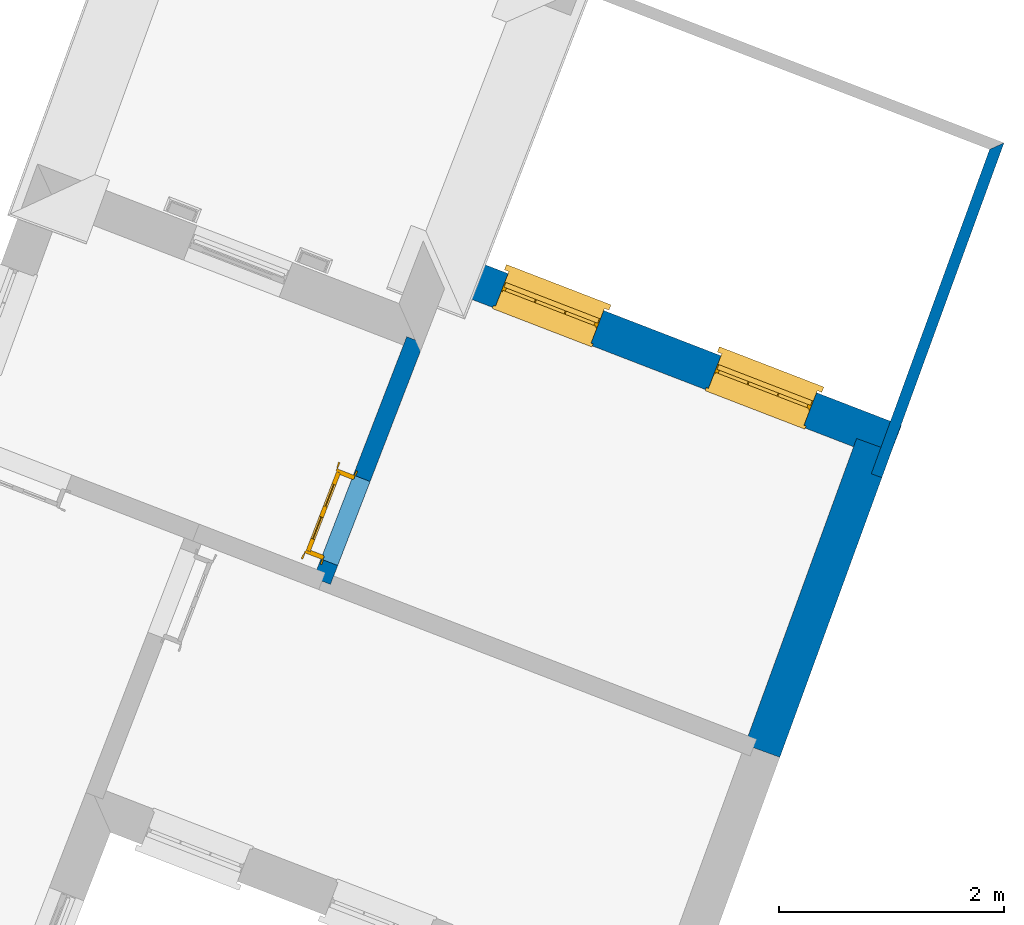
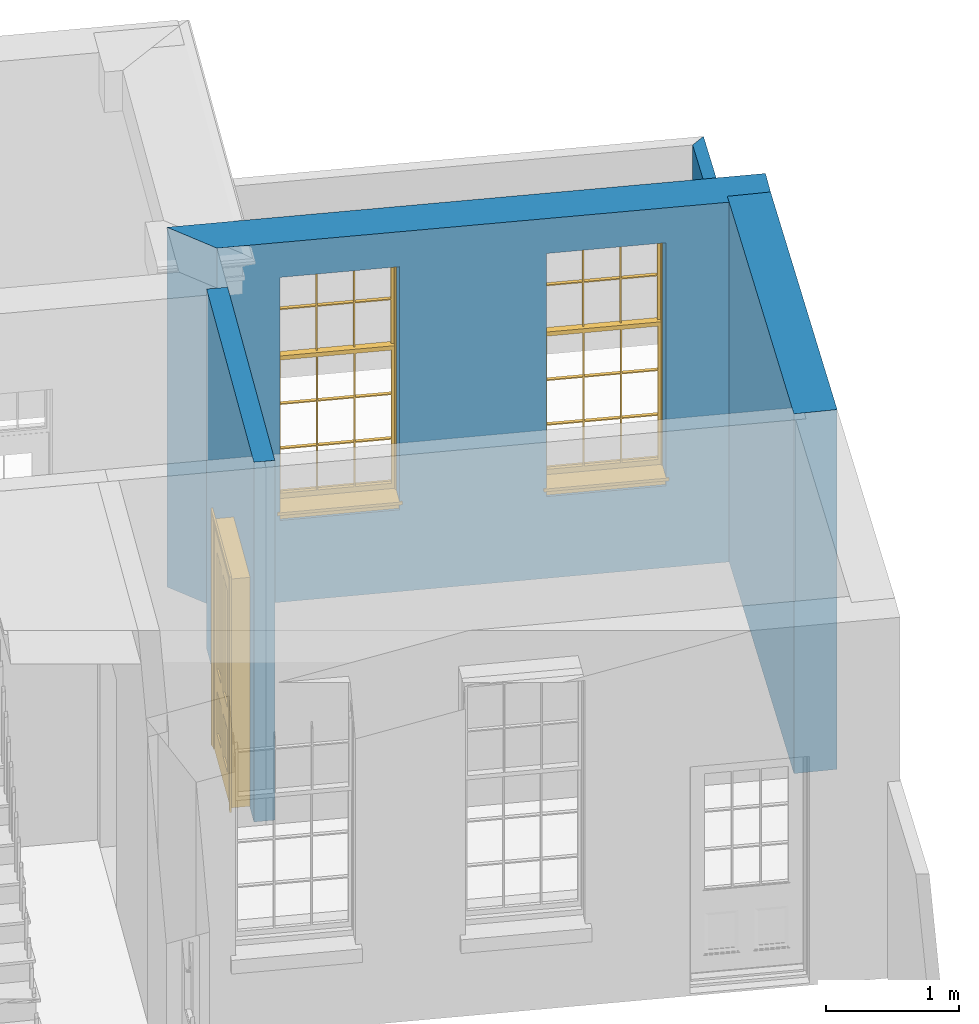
# One storey, part 4 of 6: 4 walls, 2 windows, 1 door, 3 openings.
"""IFC4 building model written with IfcOpenShell, lengths in metres."""

from ifc_helpers import new_model, si_unit, frame, origin, origin_with_axes, place, context, subcontext, project, spatial, polyline, outline, extrude, faceted_brep, source, transform, mapped, material, layer, layer_set, layer_usage, type_object, type_shapes, element, fill, save


model = new_model("IFC4")

# Units and contexts
model_context = context("Model", 3, world=origin_with_axes())
body_context = subcontext(model_context, "Body", "Model", "MODEL_VIEW")
ifc_project = project(units=[si_unit("PLANEANGLEUNIT", "RADIAN"), si_unit("MASSUNIT", "GRAM", prefix="KILO"), si_unit("FORCEUNIT", "NEWTON", prefix="KILO"), si_unit("LENGTHUNIT", "METRE"), si_unit("AREAUNIT", "SQUARE_METRE"), si_unit("VOLUMEUNIT", "CUBIC_METRE")], contexts=[model_context, model_context])

# Sites, building, storey
site_1_placement = place(None, origin_with_axes())
site_1 = spatial("IfcSite", under=ifc_project, at=site_1_placement, Name="Tamar")
site_2_placement = place(site_1_placement, origin_with_axes())
site_2 = spatial("IfcSite", under=site_1, at=site_2_placement, Name="Site plot-11", CompositionType="ELEMENT")
building_placement = place(None, origin_with_axes())
building = spatial("IfcBuilding", under=site_2, at=building_placement, Name="Building plot-11", CompositionType="ELEMENT")
storey_placement = place(None, frame((0.0, 0.0, 26.8), z_axis=(0.0, 0.0, 1.0), x_axis=(1.0, 0.0, 0.0)))
storey = spatial("IfcBuildingStorey", under=building, at=storey_placement, Name="plot-11 0", CompositionType="ELEMENT", Elevation=26.8)

# Wall, openings, windows
ifc_material_1 = material(Name="Masonry")
ifc_layer_1 = layer(ifc_material_1, 0.33, ventilated=False)
ifc_layer_set_1 = layer_set([ifc_layer_1], Name="exterior_0.08_0.25")
ifc_layer_usage_1 = layer_usage(ifc_layer_set_1, "AXIS2", "POSITIVE", -0.25)
wall_type_1 = type_object("IfcWallType", Name="exterior_0.08_0.25", PredefinedType="SOLIDWALL", material=ifc_layer_set_1)
wall_1_placement = place(storey_placement, frame((248.278077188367, 315.049619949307, 0.0), z_axis=(0.0, 0.0, 1.0), x_axis=(-0.932925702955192, 0.360068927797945, 0.0)))
wall_1 = element("IfcWall", 1, at=wall_1_placement, inside=storey, type_object=wall_type_1, material=ifc_layer_usage_1, Name="exterior", context=body_context, shape_type="SweptSolid", body=[
    extrude(outline(polyline([(-0.249999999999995, 0.0799999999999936), (-0.250000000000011, -0.249999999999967), (4.30341760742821, -0.249999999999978), (3.97341760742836, 0.0800000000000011), (-0.249999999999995, 0.0799999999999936)])), origin_with_axes(), (0.0, 0.0, 1.0), 3.3),
])
opening_1_placement = place(wall_1_placement, frame((0.558354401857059, 0.0, 0.75)))
opening_1 = element("IfcOpeningElement", 2, at=opening_1_placement, cuts=wall_1, Name="My Opening", ObjectType="Opening", context=body_context, shape_type="SweptSolid", body=[
    extrude(outline(polyline([(0.0, -0.269999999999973), (0.910000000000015, -0.269999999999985), (0.910000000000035, 1.10000000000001), (1.95399252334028e-14, 1.10000000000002), (0.0, -0.269999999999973)])), origin_with_axes(), (0.0, 0.0, 1.0), 2.23),
])
opening_2_placement = place(wall_1_placement, frame((2.58506320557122, 0.0, 0.75)))
opening_2 = element("IfcOpeningElement", 3, at=opening_2_placement, cuts=wall_1, Name="My Opening", ObjectType="Opening", context=body_context, shape_type="SweptSolid", body=[
    extrude(outline(polyline([(0.0, -0.269999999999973), (0.910000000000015, -0.269999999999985), (0.910000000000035, 1.10000000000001), (1.99840144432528e-14, 1.10000000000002), (0.0, -0.269999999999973)])), origin_with_axes(), (0.0, 0.0, 1.0), 2.23),
])
window_type = type_object("IfcWindowType", Name="sash_big_taller", PartitioningType="DOUBLE_PANEL_HORIZONTAL", PredefinedType="NOTDEFINED")
shared_shape_1 = source(origin(), body_context, "Body", "Brep", [
    faceted_brep([(0.033125, 0.145, 1.385209), (0.01, 0.145, 1.385209), (0.033125, 0.145, 1.786042), (0.876875, 0.145, 1.385209), (0.876875, 0.145, 1.786042), (0.9, 0.145, 1.385209), (0.876875, 0.145, 1.796042), (0.876875, 0.145, 2.196875), (0.9, 0.145, 2.22), (0.033125, 0.145, 2.196875), (0.033125, 0.145, 1.796042), (0.01, 0.145, 2.22), (0.876875, 0.115, 1.786042), (0.876875, 0.115, 1.385209), (0.9, 0.115, 1.347084), (0.033125, 0.115, 2.196875), (0.01, 0.115, 2.22), (0.033125, 0.115, 1.796042), (0.01, 0.115, 1.347084), (0.033125, 0.115, 1.385209), (0.033125, 0.115, 1.786042), (0.876875, 0.115, 2.196875), (0.876875, 0.115, 1.796042), (0.9, 0.115, 2.22), (0.033125, 0.145, 1.347084), (0.01, 0.145, 1.347084), (0.033125, 0.145, 0.94625), (0.876875, 0.145, 1.347084), (0.876875, 0.145, 0.94625), (0.9, 0.145, 1.347084), (0.876875, 0.145, 0.52625), (0.876875, 0.145, 0.125417), (0.9, 0.145, 0.077167), (0.033125, 0.145, 0.125417), (0.033125, 0.145, 0.52625), (0.01, 0.145, 0.077167), (-0.0425, 0.0, 0.01), (-0.0425, -0.05, 0.001667), (0.0, 0.0, 0.01), (0.9525, 0.0, 0.01), (0.91, 0.0, 0.01), (0.9525, -0.05, 0.001667), (-0.02, 0.33, 0.077167), (0.0, 0.33, 0.077167), (-0.02, 0.36, 0.077167), (0.0, 0.19, 0.077167), (0.01, 0.19, 0.077167), (0.91, 0.19, 0.077167), (0.91, 0.33, 0.077167), (0.9, 0.19, 0.077167), (0.93, 0.33, 0.077167), (0.93, 0.36, 0.077167), (0.01, 0.175, 1.385209), (0.9, 0.175, 1.385209), (0.876875, 0.175, 0.125417), (0.876875, 0.175, 0.52625), (0.9, 0.175, 0.077167), (0.876875, 0.175, 0.94625), (0.876875, 0.175, 1.347084), (0.033125, 0.175, 0.125417), (0.01, 0.175, 0.077167), (0.033125, 0.175, 0.52625), (0.033125, 0.175, 1.347084), (0.033125, 0.175, 0.94625), (-0.02, 0.33, 0.052167), (-0.02, 0.36, 0.052167), (0.93, 0.36, 0.052167), (0.93, 0.33, 0.052167), (0.91, 0.33, 0.052167), (0.0, 0.33, 0.052167), (0.91, 0.1, 0.026667), (0.0, 0.1, 0.026667), (-0.0425, -0.05, -0.123333), (0.9525, -0.05, -0.123333), (-0.0425, 0.0, -0.123333), (0.9525, 0.0, -0.123333), (0.01, 0.19, 2.22), (0.9, 0.19, 2.22), (0.0, 0.19, 2.23), (0.91, 0.19, 2.23), (0.01, 0.1, 0.077167), (0.9, 0.1, 0.077167), (0.592292, 0.145, 0.125417), (0.592292, 0.175, 0.125417), (0.317708, 0.175, 0.125417), (0.317708, 0.145, 0.125417), (0.592292, 0.145, 0.53625), (0.317708, 0.145, 0.53625), (0.317708, 0.145, 0.52625), (0.592292, 0.145, 0.52625), (0.592292, 0.175, 0.53625), (0.317708, 0.175, 0.53625), (0.592292, 0.115, 1.796042), (0.592292, 0.145, 1.796042), (0.317708, 0.145, 1.796042), (0.317708, 0.115, 1.796042), (0.317708, 0.115, 1.786042), (0.592292, 0.115, 1.786042), (0.317708, 0.145, 1.786042), (0.592292, 0.145, 1.786042), (0.602292, 0.115, 1.786042), (0.592292, 0.115, 1.385209), (0.602292, 0.115, 1.385209), (0.602292, 0.145, 1.385209), (0.592292, 0.145, 1.385209), (0.602292, 0.145, 1.786042), (0.876875, 0.145, 0.53625), (0.876875, 0.175, 0.53625), (0.602292, 0.175, 0.53625), (0.602292, 0.145, 0.53625), (0.317708, 0.175, 0.52625), (0.307708, 0.175, 0.125417), (0.307708, 0.175, 0.52625), (0.602292, 0.175, 0.52625), (0.602292, 0.175, 0.125417), (0.592292, 0.175, 0.52625), (0.307708, 0.175, 0.53625), (0.033125, 0.175, 0.53625), (0.317708, 0.175, 1.347084), (0.317708, 0.175, 0.94625), (0.307708, 0.175, 0.94625), (0.307708, 0.175, 1.347084), (0.602292, 0.175, 1.347084), (0.602292, 0.175, 0.94625), (0.592292, 0.175, 0.94625), (0.592292, 0.175, 1.347084), (0.307708, 0.145, 0.52625), (0.307708, 0.145, 0.125417), (0.307708, 0.145, 0.53625), (0.033125, 0.145, 0.53625), (0.307708, 0.145, 1.347084), (0.307708, 0.145, 0.94625), (0.592292, 0.145, 1.347084), (0.592292, 0.145, 0.94625), (0.317708, 0.145, 0.94625), (0.317708, 0.145, 1.347084), (0.602292, 0.145, 0.94625), (0.602292, 0.145, 1.347084), (0.602292, 0.145, 0.52625), (0.602292, 0.145, 0.125417), (0.307708, 0.115, 1.796042), (0.307708, 0.115, 1.786042), (0.307708, 0.115, 1.385209), (0.317708, 0.115, 1.385209), (0.317708, 0.115, 2.196875), (0.307708, 0.115, 2.196875), (0.602292, 0.115, 2.196875), (0.592292, 0.115, 2.196875), (0.602292, 0.115, 1.796042), (0.602292, 0.145, 1.796042), (0.307708, 0.145, 1.796042), (0.307708, 0.145, 2.196875), (0.317708, 0.145, 2.196875), (0.592292, 0.145, 2.196875), (0.602292, 0.145, 2.196875), (0.307708, 0.145, 1.786042), (0.317708, 0.145, 1.385209), (0.307708, 0.145, 1.385209), (0.876875, 0.175, 0.93625), (0.033125, 0.175, 0.93625), (0.033125, 0.145, 0.93625), (0.876875, 0.145, 0.93625), (0.91, 0.1, 2.23), (0.9, 0.1, 2.22), (0.01, 0.1, 2.22), (0.0, 0.1, 2.23), (0.91, 0.0, 0.0), (0.0, 0.0, 0.0), (0.91, 0.33, 0.0), (0.0, 0.33, 0.0), (0.317708, 0.145, 0.93625), (0.592292, 0.145, 0.93625), (0.317708, 0.175, 0.93625), (0.307708, 0.175, 0.93625), (0.602292, 0.175, 0.93625), (0.592292, 0.175, 0.93625), (0.307708, 0.145, 0.93625), (0.602292, 0.145, 0.93625)], [[[0, 1, 2]], [[3, 4, 5]], [[6, 7, 8]], [[9, 10, 11]], [[12, 13, 14]], [[15, 16, 17]], [[18, 19, 20]], [[21, 22, 23]], [[24, 25, 26]], [[27, 28, 29]], [[30, 31, 32]], [[33, 34, 35]], [[14, 27, 29]], [[25, 24, 18]], [[36, 37, 38]], [[39, 40, 41]], [[42, 43, 44]], [[45, 46, 43]], [[47, 48, 49]], [[50, 51, 48]], [[1, 0, 52]], [[5, 53, 3]], [[54, 55, 56]], [[57, 58, 53]], [[59, 60, 61]], [[62, 63, 52]], [[48, 43, 46, 49]], [[51, 44, 43, 48]], [[64, 42, 44, 65]], [[65, 44, 51, 66]], [[66, 51, 50, 67]], [[65, 66, 68, 69]], [[60, 56, 49, 46]], [[70, 71, 38, 40]], [[37, 41, 40, 38]], [[37, 72, 73, 41]], [[74, 75, 73, 72]], [[8, 11, 76, 77]], [[76, 78, 79, 77]], [[32, 35, 80, 81]], [[81, 80, 71, 70]], [[82, 83, 84, 85]], [[86, 87, 88, 89]], [[86, 90, 91, 87]], [[92, 93, 94, 95]], [[92, 95, 96, 97]], [[96, 98, 99, 97]], [[100, 97, 101, 102]], [[103, 104, 99, 105]], [[97, 99, 104, 101]], [[102, 103, 105, 100]], [[106, 107, 108, 109]], [[110, 84, 111, 112]], [[113, 114, 83, 115]], [[116, 112, 61, 117]], [[90, 115, 110, 91]], [[118, 119, 120, 121]], [[122, 123, 124, 125]], [[113, 108, 107, 55]], [[126, 112, 111, 127]], [[34, 61, 112, 126]], [[89, 115, 83, 82]], [[88, 110, 115, 89]], [[85, 84, 110, 88]], [[128, 116, 117, 129]], [[130, 121, 120, 131]], [[132, 125, 124, 133]], [[134, 119, 118, 135]], [[136, 123, 122, 137]], [[138, 113, 55, 30]], [[139, 114, 113, 138]], [[138, 30, 106, 109]], [[88, 126, 127, 85]], [[138, 89, 82, 139]], [[137, 132, 133, 136]], [[128, 129, 34, 126]], [[135, 130, 131, 134]], [[140, 17, 20, 141]], [[96, 141, 142, 143]], [[144, 145, 140, 95]], [[146, 147, 92, 148]], [[100, 12, 22, 148]], [[149, 6, 4, 105]], [[94, 150, 151, 152]], [[149, 93, 153, 154]], [[99, 98, 94, 93]], [[155, 2, 10, 150]], [[156, 157, 155, 98]], [[141, 155, 157, 142]], [[20, 2, 155, 141]], [[143, 156, 98, 96]], [[140, 150, 10, 17]], [[145, 151, 150, 140]], [[147, 153, 93, 92]], [[95, 94, 152, 144]], [[22, 6, 149, 148]], [[148, 149, 154, 146]], [[100, 105, 4, 12]], [[109, 86, 89, 138]], [[108, 113, 115, 90]], [[91, 110, 112, 116]], [[87, 128, 126, 88]], [[97, 100, 148, 92]], [[141, 96, 95, 140]], [[98, 155, 150, 94]], [[105, 99, 93, 149]], [[143, 101, 104, 156]], [[135, 118, 125, 132]], [[144, 152, 153, 147]], [[127, 111, 59, 33]], [[15, 9, 151, 145]], [[146, 154, 7, 21]], [[31, 54, 114, 139]], [[36, 74, 72, 37]], [[39, 41, 73, 75]], [[18, 14, 101, 143]], [[23, 16, 144, 147]], [[83, 56, 60, 84]], [[52, 53, 125, 118]], [[53, 52, 156, 104]], [[11, 8, 153, 152]], [[14, 18, 135, 132]], [[2, 1, 11, 10]], [[8, 5, 4, 6]], [[57, 53, 56, 158]], [[60, 52, 63, 159]], [[26, 25, 35, 160]], [[32, 29, 28, 161]], [[14, 23, 22, 12]], [[18, 20, 17, 16]], [[19, 0, 2, 20]], [[17, 10, 9, 15]], [[12, 4, 3, 13]], [[21, 7, 6, 22]], [[27, 58, 57, 28]], [[30, 55, 54, 31]], [[33, 59, 61, 34]], [[26, 63, 62, 24]], [[5, 8, 77, 53]], [[76, 11, 1, 52]], [[46, 45, 78, 76]], [[49, 77, 79, 47]], [[70, 162, 163, 81]], [[71, 80, 164, 165]], [[19, 142, 157, 0]], [[102, 13, 3, 103]], [[121, 130, 24, 62]], [[29, 32, 81, 14]], [[80, 35, 25, 18]], [[60, 46, 76, 52]], [[77, 49, 56, 53]], [[23, 14, 81, 163]], [[16, 164, 80, 18]], [[35, 85, 127]], [[127, 33, 35]], [[139, 82, 32]], [[32, 31, 139]], [[32, 82, 85, 35]], [[102, 101, 14]], [[14, 13, 102]], [[18, 143, 142]], [[142, 19, 18]], [[146, 21, 23]], [[23, 147, 146]], [[16, 15, 145]], [[145, 144, 16]], [[11, 152, 151]], [[151, 9, 11]], [[154, 153, 8]], [[8, 7, 154]], [[23, 163, 164, 16]], [[162, 165, 164, 163]], [[52, 118, 121]], [[121, 62, 52]], [[125, 53, 122]], [[58, 122, 53]], [[27, 137, 122, 58]], [[56, 83, 114]], [[114, 54, 56]], [[111, 84, 60]], [[60, 59, 111]], [[137, 27, 14]], [[14, 132, 137]], [[130, 135, 18]], [[18, 24, 130]], [[157, 156, 52]], [[52, 0, 157]], [[103, 3, 53]], [[53, 104, 103]], [[79, 78, 165, 162]], [[78, 45, 71, 165]], [[162, 70, 47, 79]], [[166, 75, 74, 167]], [[68, 66, 67]], [[48, 68, 67, 50]], [[69, 64, 65]], [[42, 64, 69, 43]], [[69, 68, 168, 169]], [[70, 68, 48, 47]], [[166, 168, 68, 70]], [[43, 69, 71, 45]], [[69, 169, 167, 71]], [[168, 166, 167, 169]], [[38, 167, 74, 36]], [[71, 167, 38]], [[39, 75, 166, 40]], [[40, 166, 70]], [[133, 134, 170, 171]], [[133, 124, 119, 134]], [[28, 57, 123, 136]], [[172, 91, 116, 173]], [[174, 108, 90, 175]], [[120, 173, 159, 63]], [[124, 175, 172, 119]], [[174, 123, 57, 158]], [[176, 173, 116, 128]], [[160, 159, 173, 176]], [[171, 175, 90, 86]], [[170, 172, 175, 171]], [[87, 91, 172, 170]], [[131, 120, 63, 26]], [[177, 174, 158, 161]], [[109, 108, 174, 177]], [[177, 161, 28, 136]], [[170, 176, 128, 87]], [[177, 171, 86, 109]], [[131, 26, 160, 176]], [[136, 133, 171, 177]], [[123, 174, 175, 124]], [[119, 172, 173, 120]], [[134, 131, 176, 170]], [[129, 117, 159, 160]], [[161, 158, 107, 106]], [[35, 34, 129]], [[35, 129, 160]], [[32, 106, 30]], [[32, 161, 106]], [[56, 55, 107]], [[56, 107, 158]], [[60, 117, 61]], [[60, 159, 117]]]),
])
type_shapes(window_type, [shared_shape_1])
window_1_placement = place(storey_placement, frame((247.854392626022, 315.502555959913, 0.75), z_axis=(0.0, 0.0, 1.0), x_axis=(-0.848962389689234, 0.327662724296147, 0.0)))
window_1 = element("IfcWindow", 4, at=window_1_placement, inside=storey, type_object=window_type, Name="toilet outside window", OverallHeight=2.23, OverallWidth=0.91, context=body_context, shape_type="MappedRepresentation", body=[
    mapped(shared_shape_1, transform((0.0, 0.0, 0.0), scale=1.0)),
])
fill(opening_1, window_1)
window_2_placement = place(storey_placement, frame((245.963623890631, 316.232310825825, 0.75), z_axis=(0.0, 0.0, 1.0), x_axis=(-0.848962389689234, 0.327662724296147, 0.0)))
window_2 = element("IfcWindow", 5, at=window_2_placement, inside=storey, type_object=window_type, Name="toilet outside window", OverallHeight=2.23, OverallWidth=0.91, context=body_context, shape_type="MappedRepresentation", body=[
    mapped(shared_shape_1, transform((0.0, 0.0, 0.0), scale=1.0)),
])
fill(opening_2, window_2)

# Wall
ifc_material_2 = material(Name="Masonry")
ifc_layer_2 = layer(ifc_material_2, 0.33, ventilated=False)
ifc_layer_set_2 = layer_set([ifc_layer_2], Name="party_0.08_0.25")
ifc_layer_usage_2 = layer_usage(ifc_layer_set_2, "AXIS2", "POSITIVE", -0.25)
wall_type_2 = type_object("IfcWallType", Name="party_0.08_0.25", PredefinedType="SOLIDWALL", material=ifc_layer_set_2)
wall_2_placement = place(storey_placement, frame((247.286137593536, 312.330722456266, 0.0), z_axis=(0.0, 0.0, 1.0), x_axis=(0.342734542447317, 0.939432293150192, 0.0)))
element("IfcWall", 6, at=wall_2_placement, inside=storey, type_object=wall_type_2, material=ifc_layer_usage_2, Name="party", context=body_context, shape_type="SweptSolid", body=[
    extrude(outline(polyline([(2.66680147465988e-14, 0.0800000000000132), (-4.26727672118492e-14, -0.250000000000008), (2.89419206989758, -0.249999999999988), (2.89419206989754, 0.0799999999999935), (2.66680147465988e-14, 0.0800000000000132)])), origin_with_axes(), (0.0, 0.0, 1.0), 3.3),
])

# Wall, opening, door
ifc_material_3 = material(Name="Masonry")
ifc_layer_3 = layer(ifc_material_3, 0.16, ventilated=False)
ifc_layer_set_3 = layer_set([ifc_layer_3], Name="interior_0.08_0.08")
ifc_layer_usage_3 = layer_usage(ifc_layer_set_3, "AXIS2", "POSITIVE", -0.08)
wall_type_3 = type_object("IfcWallType", Name="interior_0.08_0.08", PredefinedType="SOLIDWALL", material=ifc_layer_set_3)
wall_3_placement = place(storey_placement, frame((243.454609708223, 313.809526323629, 0.0), z_axis=(0.0, 0.0, 1.0), x_axis=(0.36006892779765, 0.932925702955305, 0.0)))
wall_3 = element("IfcWall", 7, at=wall_3_placement, inside=storey, type_object=wall_type_3, material=ifc_layer_usage_3, Name="interior", context=body_context, shape_type="SweptSolid", body=[
    extrude(outline(polyline([(-1.80073597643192e-14, 0.0799999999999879), (1.80171569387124e-14, -0.0799999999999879), (2.29724046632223, -0.0799999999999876), (2.29724046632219, 0.0799999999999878), (-1.80073597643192e-14, 0.0799999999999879)])), origin_with_axes(), (0.0, 0.0, 1.0), 3.3),
])
opening_3_placement = place(wall_3_placement, frame((0.17999999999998, 0.0, 0.0199999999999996)))
opening_3 = element("IfcOpeningElement", 8, at=opening_3_placement, cuts=wall_3, Name="My Opening", ObjectType="Opening", context=body_context, shape_type="SweptSolid", body=[
    extrude(outline(polyline([(0.0, -0.100000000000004), (0.800000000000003, -0.0999999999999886), (0.800000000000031, 1.10000000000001), (2.80053757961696e-14, 1.09999999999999), (0.0, -0.100000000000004)])), origin_with_axes(), (0.0, 0.0, 1.0), 2.1),
])
door_type = type_object("IfcDoorType", Name="door_inside", OperationType="SINGLE_SWING_LEFT", PredefinedType="NOTDEFINED")
shared_shape_2 = source(origin(), body_context, "Body", "Brep", [
    faceted_brep([(0.773, 0.33, 1.895), (0.66, 0.33, 1.895), (0.66, 0.33, 2.073), (0.773, 0.33, 2.073), (0.773, 0.33, 0.82), (0.66, 0.33, 0.82), (0.45, 0.33, 1.895), (0.45, 0.33, 2.073), (0.773, 0.33, 0.62), (0.66, 0.33, 0.62), (0.66, 0.315, 0.82), (0.66, 0.315, 1.895), (0.45, 0.315, 1.895), (0.35, 0.33, 1.895), (0.35, 0.33, 2.073), (0.773, 0.33, 0.225), (0.66, 0.33, 0.225), (0.45, 0.33, 0.62), (0.45, 0.33, 0.82), (0.45, 0.315, 0.82), (0.35, 0.33, 0.82), (0.14, 0.33, 2.073), (0.14, 0.33, 1.895), (0.773, 0.33, 0.0), (0.66, 0.33, 0.0), (0.66, 0.315, 0.225), (0.66, 0.315, 0.62), (0.45, 0.315, 0.62), (0.35, 0.33, 0.62), (0.35, 0.315, 0.82), (0.35, 0.315, 1.895), (0.14, 0.315, 1.895), (0.027, 0.33, 2.073), (0.027, 0.33, 1.895), (0.773, 0.292, 0.0), (0.66, 0.292, 0.0), (0.45, 0.33, 0.0), (0.45, 0.33, 0.225), (0.45, 0.315, 0.225), (0.35, 0.33, 0.225), (0.14, 0.33, 0.82), (0.14, 0.33, 0.62), (0.14, 0.315, 0.82), (0.027, 0.33, 0.82), (0.773, 0.292, 0.225), (0.66, 0.292, 0.225), (0.45, 0.292, 0.0), (0.35, 0.33, 0.0), (0.35, 0.315, 0.225), (0.35, 0.315, 0.62), (0.14, 0.315, 0.62), (0.027, 0.33, 0.62), (0.773, 0.292, 0.62), (0.66, 0.292, 0.62), (0.45, 0.292, 0.225), (0.35, 0.292, 0.0), (0.14, 0.33, 0.225), (0.14, 0.33, 0.0), (0.14, 0.315, 0.225), (0.027, 0.33, 0.225), (0.773, 0.292, 0.82), (0.66, 0.292, 0.82), (0.66, 0.307, 0.62), (0.66, 0.307, 0.225), (0.45, 0.307, 0.225), (0.35, 0.292, 0.225), (0.14, 0.292, 0.0), (0.027, 0.33, 0.0), (0.773, 0.292, 1.895), (0.66, 0.292, 1.895), (0.45, 0.292, 0.62), (0.45, 0.292, 0.82), (0.45, 0.307, 0.62), (0.35, 0.292, 0.62), (0.14, 0.292, 0.225), (0.027, 0.292, 0.0), (0.773, 0.292, 2.073), (0.66, 0.292, 2.073), (0.66, 0.307, 1.895), (0.66, 0.307, 0.82), (0.45, 0.307, 0.82), (0.35, 0.292, 0.82), (0.35, 0.307, 0.62), (0.35, 0.307, 0.225), (0.14, 0.307, 0.225), (0.027, 0.292, 0.225), (0.45, 0.292, 1.895), (0.45, 0.292, 2.073), (0.45, 0.307, 1.895), (0.35, 0.292, 1.895), (0.14, 0.292, 0.82), (0.14, 0.292, 0.62), (0.14, 0.307, 0.62), (0.027, 0.292, 0.62), (0.35, 0.292, 2.073), (0.35, 0.307, 1.895), (0.35, 0.307, 0.82), (0.14, 0.307, 0.82), (0.027, 0.292, 0.82), (0.14, 0.292, 2.073), (0.14, 0.292, 1.895), (0.14, 0.307, 1.895), (0.027, 0.292, 1.895), (0.027, 0.292, 2.073), (0.02, 0.335, 0.0), (0.005, 0.34, 0.0), (0.005, 0.34, 2.095), (0.02, 0.335, 2.08), (0.02, 0.33, 0.0), (0.0, 0.335, 0.0), (0.0, 0.335, 2.1), (0.795, 0.34, 2.095), (0.78, 0.335, 2.08), (0.02, 0.33, 2.08), (0.0, 0.33, 0.0), (-0.032, 0.345, 0.0), (-0.032, 0.345, 2.132), (0.8, 0.335, 2.1), (0.795, 0.34, 0.0), (0.78, 0.335, 0.0), (0.78, 0.33, 2.08), (0.04, 0.29, 0.0), (0.025, 0.29, 0.0), (0.025, 0.29, 2.075), (0.04, 0.29, 2.06), (-0.04, 0.34, 0.0), (-0.04, 0.34, 2.14), (0.832, 0.345, 2.132), (0.8, 0.335, 0.0), (0.78, 0.33, 0.0), (0.8, 0.33, 0.0), (0.86, 0.33, 0.0), (0.86, 0.33, 2.16), (0.8, 0.33, 2.1), (-0.06, 0.33, 2.16), (0.0, 0.33, 2.1), (-0.06, 0.33, 0.0), (-0.04, 0.345, 0.0), (-0.04, 0.345, 2.14), (0.84, 0.34, 2.14), (0.832, 0.345, 0.0), (0.84, 0.34, 0.0), (0.86, 0.345, 0.0), (0.86, 0.345, 2.16), (-0.06, 0.345, 2.16), (-0.06, 0.345, 0.0), (0.84, 0.345, 0.0), (0.84, 0.345, 2.14), (-0.025, 0.155, 0.0), (-0.025, 0.16, 0.0), (-0.025, 0.16, 2.125), (-0.025, 0.155, 2.125), (-0.017, 0.155, 0.0), (-0.017, 0.155, 2.117), (0.825, 0.16, 2.125), (0.825, 0.155, 2.125), (0.825, 0.155, 0.0), (0.845, 0.155, 0.0), (-0.045, 0.155, 2.145), (-0.045, 0.155, 0.0), (0.845, 0.155, 2.145), (0.015, 0.165, 0.0), (0.015, 0.165, 2.085), (0.817, 0.155, 2.117), (0.825, 0.16, 0.0), (0.845, 0.17, 0.0), (0.845, 0.17, 2.145), (-0.045, 0.17, 2.145), (-0.045, 0.17, 0.0), (0.02, 0.16, 0.0), (0.02, 0.16, 2.08), (0.785, 0.165, 2.085), (0.817, 0.155, 0.0), (0.8, 0.17, 0.0), (0.8, 0.17, 2.1), (0.0, 0.17, 2.1), (0.0, 0.17, 0.0), (0.035, 0.165, 0.0), (0.035, 0.165, 2.065), (0.78, 0.16, 2.08), (0.785, 0.165, 0.0), (0.775, 0.29, 2.075), (0.76, 0.29, 2.06), (0.035, 0.17, 2.065), (0.035, 0.17, 0.0), (0.765, 0.165, 2.065), (0.78, 0.16, 0.0), (0.765, 0.17, 0.0), (0.765, 0.17, 2.065), (0.765, 0.165, 0.0), (0.04, 0.17, 2.06), (0.04, 0.17, 0.0), (0.76, 0.17, 2.06), (0.76, 0.17, 0.0), (0.76, 0.29, 0.0), (0.775, 0.29, 0.0), (0.025, 0.33, 0.0), (0.025, 0.33, 2.075), (0.775, 0.33, 0.0), (0.775, 0.33, 2.075)], [[[0, 1, 2, 3]], [[1, 0, 4, 5]], [[1, 6, 7, 2]], [[8, 9, 5, 4]], [[1, 5, 10, 11]], [[6, 1, 11, 12]], [[6, 13, 14, 7]], [[15, 16, 9, 8]], [[9, 17, 18, 5]], [[5, 18, 19, 10]], [[10, 19, 12, 11]], [[18, 6, 12, 19]], [[18, 20, 13, 6]], [[21, 14, 13, 22]], [[23, 24, 16, 15]], [[9, 16, 25, 26]], [[17, 9, 26, 27]], [[17, 28, 20, 18]], [[13, 20, 29, 30]], [[22, 13, 30, 31]], [[32, 21, 22, 33]], [[34, 35, 24, 23]], [[24, 36, 37, 16]], [[16, 37, 38, 25]], [[25, 38, 27, 26]], [[37, 17, 27, 38]], [[37, 39, 28, 17]], [[40, 20, 28, 41]], [[20, 40, 42, 29]], [[31, 30, 29, 42]], [[40, 22, 31, 42]], [[33, 22, 40, 43]], [[35, 34, 44, 45]], [[35, 46, 36, 24]], [[36, 47, 39, 37]], [[28, 39, 48, 49]], [[41, 28, 49, 50]], [[43, 40, 41, 51]], [[45, 44, 52, 53]], [[46, 35, 45, 54]], [[46, 55, 47, 36]], [[56, 39, 47, 57]], [[39, 56, 58, 48]], [[50, 49, 48, 58]], [[56, 41, 50, 58]], [[51, 41, 56, 59]], [[53, 52, 60, 61]], [[45, 53, 62, 63]], [[54, 45, 63, 64]], [[55, 46, 54, 65]], [[55, 66, 57, 47]], [[59, 56, 57, 67]], [[61, 60, 68, 69]], [[70, 53, 61, 71]], [[53, 70, 72, 62]], [[72, 64, 63, 62]], [[70, 54, 64, 72]], [[65, 54, 70, 73]], [[65, 74, 66, 55]], [[67, 57, 66, 75]], [[69, 68, 76, 77]], [[61, 69, 78, 79]], [[71, 61, 79, 80]], [[73, 70, 71, 81]], [[65, 73, 82, 83]], [[74, 65, 83, 84]], [[74, 85, 75, 66]], [[86, 69, 77, 87]], [[69, 86, 88, 78]], [[88, 80, 79, 78]], [[86, 71, 80, 88]], [[81, 71, 86, 89]], [[73, 81, 90, 91]], [[73, 91, 92, 82]], [[83, 82, 92, 84]], [[91, 74, 84, 92]], [[91, 93, 85, 74]], [[89, 86, 87, 94]], [[81, 89, 95, 96]], [[90, 81, 96, 97]], [[90, 98, 93, 91]], [[94, 99, 100, 89]], [[89, 100, 101, 95]], [[101, 97, 96, 95]], [[100, 90, 97, 101]], [[100, 102, 98, 90]], [[99, 103, 102, 100]], [[32, 103, 99, 21]], [[102, 103, 32, 33]], [[98, 102, 33, 43]], [[21, 99, 94, 14]], [[94, 87, 7, 14]], [[7, 87, 77, 2]], [[76, 3, 2, 77]], [[43, 51, 93, 98]], [[51, 59, 85, 93]], [[67, 75, 85, 59]], [[34, 23, 15, 44]], [[44, 15, 8, 52]], [[52, 8, 4, 60]], [[0, 68, 60, 4]], [[0, 3, 76, 68]], [[104, 105, 106, 107]], [[104, 108, 109, 105]], [[105, 109, 110, 106]], [[107, 106, 111, 112]], [[107, 113, 108, 104]], [[114, 109, 108]], [[109, 115, 116, 110]], [[106, 110, 117, 111]], [[112, 111, 118, 119]], [[113, 107, 112, 120]], [[121, 122, 123, 124]], [[115, 109, 114, 125]], [[115, 125, 126, 116]], [[110, 116, 127, 117]], [[111, 117, 128, 118]], [[118, 128, 129, 119]], [[120, 112, 119, 129]], [[130, 129, 128]], [[130, 131, 132, 133]], [[133, 132, 134, 135]], [[135, 134, 136, 114]], [[136, 125, 114]], [[125, 137, 138, 126]], [[116, 126, 139, 127]], [[117, 127, 140, 128]], [[141, 130, 128, 140]], [[131, 130, 141]], [[131, 142, 143, 132]], [[132, 143, 144, 134]], [[134, 144, 145, 136]], [[137, 125, 136, 145]], [[143, 142, 146]], [[143, 146, 147]], [[137, 145, 144]], [[143, 147, 138]], [[138, 137, 144]], [[143, 138, 144]], [[126, 138, 147, 139]], [[127, 139, 141, 140]], [[142, 131, 141, 146]], [[139, 147, 146, 141]], [[148, 149, 150, 151]], [[149, 152, 153, 150]], [[151, 150, 154, 155]], [[155, 156, 157]], [[158, 159, 148]], [[158, 148, 151]], [[155, 157, 160]], [[158, 151, 155]], [[155, 160, 158]], [[152, 161, 162, 153]], [[150, 153, 163, 154]], [[155, 154, 164, 156]], [[156, 164, 165, 157]], [[157, 165, 166, 160]], [[160, 166, 167, 158]], [[158, 167, 168, 159]], [[161, 169, 170, 162]], [[153, 162, 171, 163]], [[154, 163, 172, 164]], [[165, 164, 173]], [[165, 173, 174, 166]], [[166, 174, 175, 167]], [[167, 175, 176, 168]], [[169, 177, 178, 170]], [[162, 170, 179, 171]], [[163, 171, 180, 172]], [[172, 180, 173, 164]], [[124, 123, 181, 182]], [[183, 178, 177, 184]], [[170, 178, 185, 179]], [[171, 179, 186, 180]], [[187, 173, 180]], [[185, 188, 187, 189]], [[188, 185, 178, 183]], [[179, 185, 189, 186]], [[189, 187, 180, 186]], [[190, 183, 184, 191]], [[192, 188, 183, 190]], [[191, 184, 122, 121]], [[124, 190, 191, 121]], [[193, 187, 188, 192]], [[182, 192, 190, 124]], [[184, 176, 122]], [[194, 195, 187, 193]], [[192, 182, 194, 193]], [[161, 176, 184]], [[114, 108, 122, 176]], [[173, 187, 195]], [[152, 149, 176, 161]], [[169, 161, 184, 177]], [[196, 122, 108]], [[176, 175, 135, 114]], [[173, 195, 129, 130]], [[176, 149, 168]], [[123, 122, 196, 197]], [[196, 108, 113, 197]], [[175, 174, 133, 135]], [[198, 129, 195]], [[133, 174, 173, 130]], [[159, 168, 149, 148]], [[181, 123, 197, 199]], [[197, 113, 120, 199]], [[199, 120, 129, 198]], [[195, 181, 199, 198]], [[195, 194, 182, 181]]]),
])
type_shapes(door_type, [shared_shape_2])
door_placement = place(storey_placement, frame((243.612714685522, 313.941446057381, 0.0199999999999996), z_axis=(0.0, 0.0, 1.0), x_axis=(0.288055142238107, 0.746340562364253, 0.0)))
door = element("IfcDoor", 9, at=door_placement, inside=storey, type_object=door_type, Name="toilet inside door", OverallHeight=2.1, OverallWidth=0.8, context=body_context, shape_type="MappedRepresentation", body=[
    mapped(shared_shape_2, transform((0.0, 0.0, 0.0), scale=1.0)),
])
fill(opening_3, door)

# Wall
ifc_material_4 = material(Name="Masonry")
ifc_layer_4 = layer(ifc_material_4, 0.1, ventilated=False)
ifc_layer_set_4 = layer_set([ifc_layer_4], Name="fence_-0.15_0.25")
ifc_layer_usage_4 = layer_usage(ifc_layer_set_4, "AXIS2", "POSITIVE", -0.25)
wall_type_4 = type_object("IfcWallType", Name="fence_-0.15_0.25", PredefinedType="SOLIDWALL", material=ifc_layer_set_4)
wall_4_placement = place(storey_placement, frame((248.278077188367, 315.049619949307, 0.0), z_axis=(0.0, 0.0, 1.0), x_axis=(0.342734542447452, 0.939432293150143, 0.0)))
element("IfcWall", 10, at=wall_4_placement, inside=storey, type_object=wall_type_4, material=ifc_layer_usage_4, Name="fence", context=body_context, shape_type="SweptSolid", body=[
    extrude(outline(polyline([(-0.250000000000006, -0.149999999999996), (-0.249999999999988, -0.249999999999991), (2.91512340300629, -0.249999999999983), (2.81695802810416, -0.150000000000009), (-0.250000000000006, -0.149999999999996)])), origin_with_axes(), (0.0, 0.0, 1.0), 1.8),
])

save(model, "model.ifc")
